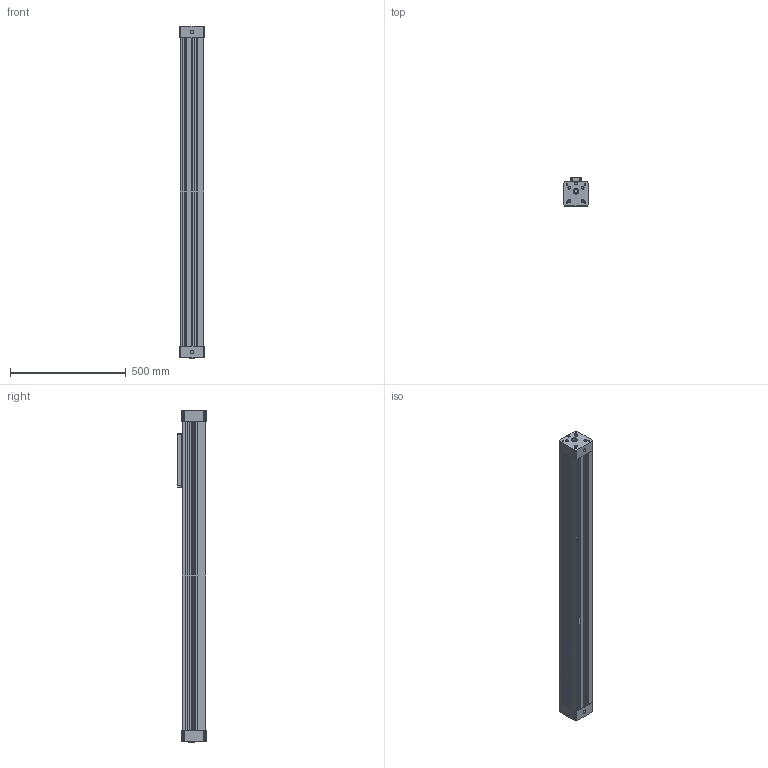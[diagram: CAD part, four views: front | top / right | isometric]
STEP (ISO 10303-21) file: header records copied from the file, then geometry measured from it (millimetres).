
FILE_DESCRIPTION (( 'STEP AP203' ), '1' );
FILE_NAME ('RLF63.1000.STEP', '2005-12-20T07:42:22', ( 'Vesta Automation srl' ), ( 'Vesta Automation srl' ), 'SwSTEP 2.0', 'SolidWorks 2005187', '' );
FILE_SCHEMA (( 'CONFIG_CONTROL_DESIGN' ));
Length unit declared in the file: millimetre
Products named in the file (6): SEALING BAND-RLFØ63_STROKE 1000; RLF63.1000; FRONT END CAP-RLFØ63; REAR END CAP-RLFØ63; BARREL-RLFØ63_STROKE 1000; CARRIAGE-RLFØ63
Assembly tree (5 placements, depth 2):
  RLF63.1000
    SEALING BAND-RLFØ63_STROKE 1000
    BARREL-RLFØ63_STROKE 1000
    REAR END CAP-RLFØ63
    CARRIAGE-RLFØ63
    FRONT END CAP-RLFØ63
Bounding box: 106 x 123 x 1432 mm (x, y, z)
Volume: 10593240.5 mm3; surface area: 1432574.6 mm2
Topology: 5 solids, 5 shells, 1677 faces, 3810 edges, 2226 vertices
Faces by surface type: cone 980, plane 502, cylinder 195
Entity records: 46888 total; most frequent: DIRECTION 8594, CARTESIAN_POINT 7821, ORIENTED_EDGE 7620, EDGE_CURVE 3810, AXIS2_PLACEMENT_3D 3109, VECTOR 2376, LINE 2376, VERTEX_POINT 2226
